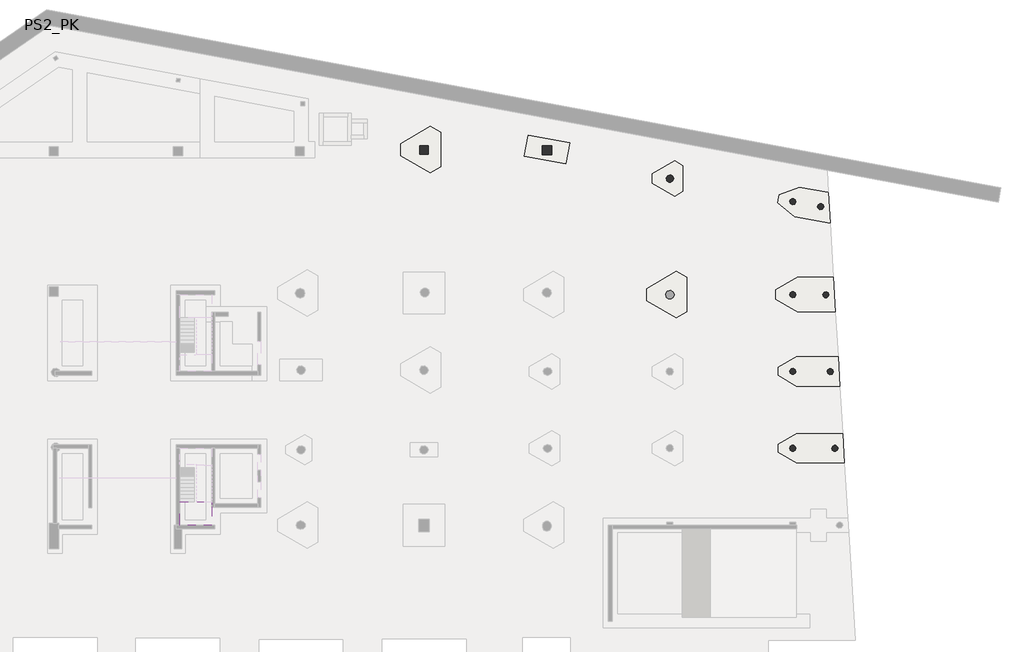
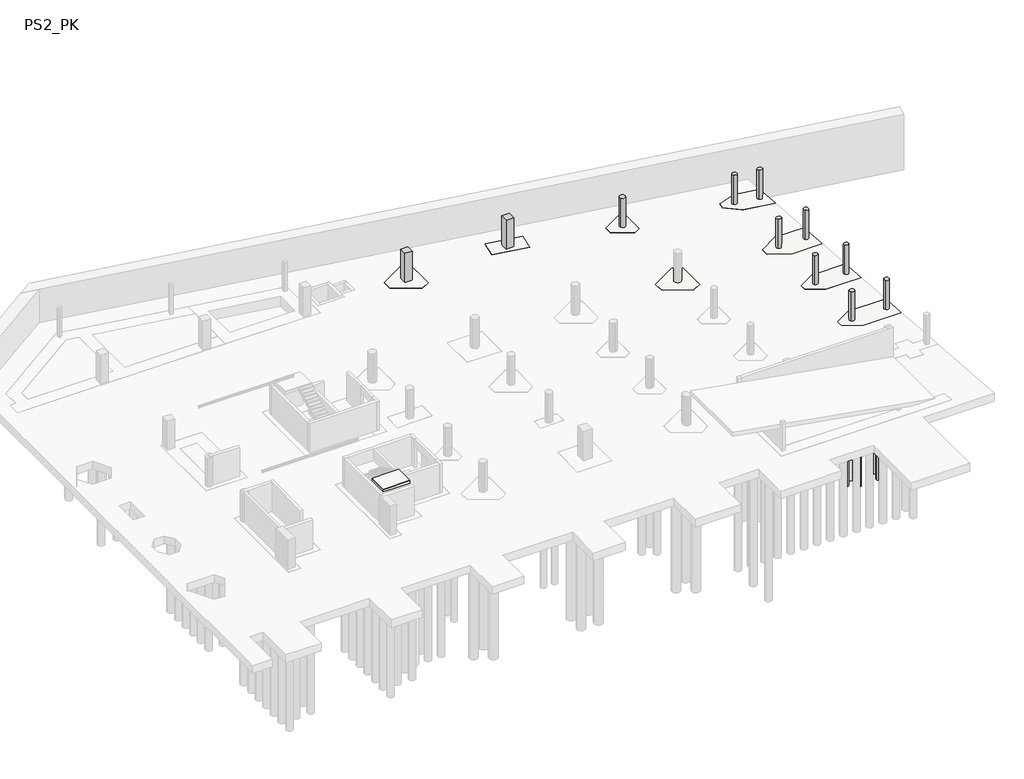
# One storey, part 8 of 10: 39 slabs, 11 columns.
"""IFC4 building model written with IfcOpenShell, lengths in millimetres."""

from ifc_helpers import new_model, si_unit, point, frame, frame_2d, origin, place, context, project, spatial, polyline, circle_curve, trimmed, segment, composite_curve, outline, extrude, faceted_brep, element, save

model = new_model("IFC4")

# Units and contexts
model_context = context("Model", 3, world=origin())
ifc_project = project(units=[si_unit("LENGTHUNIT", "METRE", prefix="MILLI")], contexts=[model_context])

# Site, building, storey
site = spatial("IfcSite", under=ifc_project)
building = spatial("IfcBuilding", under=site)
storey = spatial("IfcBuildingStorey", under=building, Name="PS2_PK", Elevation=-1600.0)

# Columns
placement = place(None, origin())
element("IfcColumn", 1, ObjectType="Hormigón-Redondo-Pilar : Pilo_Rodo-Formigo-500", at=placement, inside=storey, context=model_context, shape_type="SweptSolid", body=[
    extrude(outline(composite_curve([segment(trimmed(circle_curve(frame_2d((39164.9781849, 13864.8960687)), 250.0), [point((38959.0732439, 13723.1104726))], [point((39370.8831259, 14006.6816649))], False, "CARTESIAN"), True, "CONTINUOUS"), segment(trimmed(circle_curve(frame_2d((39164.9781849, 13864.8960687)), 250.0), [point((39370.8831259, 14006.6816649))], [point((38959.0732439, 13723.1104726))], False, "CARTESIAN"), True, "CONTINUOUS")], self_intersect=False)), frame((0.0, 0.0, -1600.0), z_axis=(0.0, 0.0, 1.0), x_axis=(1.0, 0.0, 0.0)), (0.0, 0.0, 1.0), 3050.0),
])
element("IfcColumn", 2, ObjectType="Hormigón-Redondo-Pilar : Pilo_Rodo-Formigo-500", at=placement, inside=storey, context=model_context, shape_type="SweptSolid", body=[
    extrude(outline(composite_curve([segment(trimmed(circle_curve(frame_2d((38738.3747997, 21018.6057261)), 250.0), [point((38532.4698587, 20876.8201299))], [point((38944.2797407, 21160.3913222))], False, "CARTESIAN"), True, "CONTINUOUS"), segment(trimmed(circle_curve(frame_2d((38738.3747997, 21018.6057261)), 250.0), [point((38944.2797407, 21160.3913222))], [point((38532.4698587, 20876.8201299))], False, "CARTESIAN"), True, "CONTINUOUS")], self_intersect=False)), frame((0.0, 0.0, -1600.0), z_axis=(0.0, 0.0, 1.0), x_axis=(1.0, 0.0, 0.0)), (0.0, 0.0, 1.0), 3050.0),
])
element("IfcColumn", 3, ObjectType="Hormigón-Redondo-Pilar : Pilo_Rodo-Formigo-600", at=placement, inside=storey, context=model_context, shape_type="SweptSolid", body=[
    extrude(outline(composite_curve([segment(trimmed(circle_curve(frame_2d((26484.7068935, 23302.069934)), 300.0), [point((26237.6209643, 23131.9272187))], [point((26731.7928227, 23472.2126494))], False, "CARTESIAN"), True, "CONTINUOUS"), segment(trimmed(circle_curve(frame_2d((26484.7068935, 23302.069934)), 300.0), [point((26731.7928227, 23472.2126494))], [point((26237.6209643, 23131.9272187))], False, "CARTESIAN"), True, "CONTINUOUS")], self_intersect=False)), frame((0.0, 0.0, -1600.0), z_axis=(0.0, 0.0, 1.0), x_axis=(1.0, 0.0, 0.0)), (0.0, 0.0, 1.0), 3050.0),
])
element("IfcColumn", 4, ObjectType="Hormigón-Redondo-Pilar : Pilo_Rodo-Formigo-500", at=placement, inside=storey, context=model_context, shape_type="SweptSolid", body=[
    extrude(outline(composite_curve([segment(trimmed(circle_curve(frame_2d((39910.401556, 1364.900857)), 250.0), [point((39704.496615, 1223.1152609))], [point((40116.306497, 1506.6864531))], False, "CARTESIAN"), True, "CONTINUOUS"), segment(trimmed(circle_curve(frame_2d((39910.401556, 1364.900857)), 250.0), [point((40116.306497, 1506.6864531))], [point((39704.496615, 1223.1152609))], False, "CARTESIAN"), True, "CONTINUOUS")], self_intersect=False)), frame((0.0, 0.0, -1600.0), z_axis=(0.0, 0.0, 1.0), x_axis=(1.0, 0.0, 0.0)), (0.0, 0.0, 1.0), 3050.0),
])
element("IfcColumn", 5, ObjectType="Hormigón-Redondo-Pilar : Pilo_Rodo-Formigo-500", at=placement, inside=storey, context=model_context, shape_type="SweptSolid", body=[
    extrude(outline(composite_curve([segment(trimmed(circle_curve(frame_2d((36484.7068935, 1364.9008565)), 250.0), [point((36278.8019525, 1223.1152604))], [point((36690.6118345, 1506.6864526))], False, "CARTESIAN"), True, "CONTINUOUS"), segment(trimmed(circle_curve(frame_2d((36484.7068935, 1364.9008565)), 250.0), [point((36690.6118345, 1506.6864526))], [point((36278.8019525, 1223.1152604))], False, "CARTESIAN"), True, "CONTINUOUS")], self_intersect=False)), frame((0.0, 0.0, -1600.0), z_axis=(0.0, 0.0, 1.0), x_axis=(1.0, 0.0, 0.0)), (0.0, 0.0, 1.0), 3050.0),
])
element("IfcColumn", 6, ObjectType="Hormigón-Redondo-Pilar : Pilo_Rodo-Formigo-500", at=placement, inside=storey, context=model_context, shape_type="SweptSolid", body=[
    extrude(outline(composite_curve([segment(trimmed(circle_curve(frame_2d((36484.7068935, 7614.9008574)), 250.0), [point((36278.8019525, 7473.1152613))], [point((36690.6118345, 7756.6864536))], False, "CARTESIAN"), True, "CONTINUOUS"), segment(trimmed(circle_curve(frame_2d((36484.7068935, 7614.9008574)), 250.0), [point((36690.6118345, 7756.6864536))], [point((36278.8019525, 7473.1152613))], False, "CARTESIAN"), True, "CONTINUOUS")], self_intersect=False)), frame((0.0, 0.0, -1600.0), z_axis=(0.0, 0.0, 1.0), x_axis=(1.0, 0.0, 0.0)), (0.0, 0.0, 1.0), 3050.0),
])
element("IfcColumn", 7, ObjectType="Hormigón-Redondo-Pilar : Pilo_Rodo-Formigo-500", at=placement, inside=storey, context=model_context, shape_type="SweptSolid", body=[
    extrude(outline(composite_curve([segment(trimmed(circle_curve(frame_2d((39537.6898707, 7614.9008552)), 250.0), [point((39331.7849297, 7473.115259))], [point((39743.5948117, 7756.6864513))], False, "CARTESIAN"), True, "CONTINUOUS"), segment(trimmed(circle_curve(frame_2d((39537.6898707, 7614.9008552)), 250.0), [point((39743.5948117, 7756.6864513))], [point((39331.7849297, 7473.115259))], False, "CARTESIAN"), True, "CONTINUOUS")], self_intersect=False)), frame((0.0, 0.0, -1600.0), z_axis=(0.0, 0.0, 1.0), x_axis=(1.0, 0.0, 0.0)), (0.0, 0.0, 1.0), 3050.0),
])
element("IfcColumn", 8, ObjectType="Hormigón-Redondo-Pilar : Pilo_Rodo-Formigo-500", at=placement, inside=storey, context=model_context, shape_type="SweptSolid", body=[
    extrude(outline(composite_curve([segment(trimmed(circle_curve(frame_2d((36484.7068935, 13864.900857)), 250.0), [point((36278.8019525, 13723.1152609))], [point((36690.6118345, 14006.6864531))], False, "CARTESIAN"), True, "CONTINUOUS"), segment(trimmed(circle_curve(frame_2d((36484.7068935, 13864.900857)), 250.0), [point((36690.6118345, 14006.6864531))], [point((36278.8019525, 13723.1152609))], False, "CARTESIAN"), True, "CONTINUOUS")], self_intersect=False)), frame((0.0, 0.0, -1600.0), z_axis=(0.0, 0.0, 1.0), x_axis=(1.0, 0.0, 0.0)), (0.0, 0.0, 1.0), 3050.0),
])
element("IfcColumn", 9, ObjectType="Hormigón-Redondo-Pilar : Pilo_Rodo-Formigo-500", at=placement, inside=storey, context=model_context, shape_type="SweptSolid", body=[
    extrude(outline(composite_curve([segment(trimmed(circle_curve(frame_2d((36484.7068935, 21438.580279)), 250.0), [point((36278.8019525, 21296.7946829))], [point((36690.6118345, 21580.3658751))], False, "CARTESIAN"), True, "CONTINUOUS"), segment(trimmed(circle_curve(frame_2d((36484.7068935, 21438.580279)), 250.0), [point((36690.6118345, 21580.3658751))], [point((36278.8019525, 21296.7946829))], False, "CARTESIAN"), True, "CONTINUOUS")], self_intersect=False)), frame((0.0, 0.0, -1600.0), z_axis=(0.0, 0.0, 1.0), x_axis=(1.0, 0.0, 0.0)), (0.0, 0.0, 1.0), 3050.0),
])
element("IfcColumn", 10, ObjectType="Concrete-Rectangular-Column : Pilar_Rectangular-Formigo-700x700", at=placement, inside=storey, context=model_context, shape_type="SweptSolid", body=[
    extrude(outline(polyline([(6834.6787349, 25964.386791), (6834.6778503, 25264.386791), (6134.6778503, 25264.3876756), (6134.6787349, 25964.3876756), (6834.6787349, 25964.386791)])), frame((0.0, 0.0, -1600.0), z_axis=(0.0, 0.0, 1.0), x_axis=(1.0, 0.0, 0.0)), (0.0, 0.0, 1.0), 3050.0),
])
element("IfcColumn", 11, ObjectType="Concrete-Rectangular-Column : Pilar_Rectangular-Formigo-750x750", at=placement, inside=storey, context=model_context, shape_type="SweptSolid", body=[
    extrude(outline(polyline([(16859.6787665, 25989.374115), (16859.6778187, 25239.374115), (16109.6778187, 25239.3750628), (16109.6787665, 25989.3750628), (16859.6787665, 25989.374115)])), frame((0.0, 0.0, -1600.0), z_axis=(0.0, 0.0, 1.0), x_axis=(1.0, 0.0, 0.0)), (0.0, 0.0, 1.0), 3050.0),
])

# Slabs
element("IfcSlab", 12, ObjectType="FunCap_Concreto_1100", at=placement, inside=storey, context=model_context, shape_type="Brep", body=[
    faceted_brep([(7011.5515081, 27552.3711641, -2700.0), (7855.9256607, 27064.8700958, -2700.0), (7855.9221194, 24264.870096, -2700.0), (7011.5467341, 23777.3711633, -2700.0), (4586.6773742, 25177.3742305, -2700.0), (4586.6786083, 26152.374231, -2700.0), (7011.5515081, 27552.3711641, -1600.0), (4586.6786083, 26152.374231, -1600.0), (4586.6773742, 25177.3742305, -1600.0), (7011.5467341, 23777.3711633, -1600.0), (7855.9221194, 24264.870096, -1600.0), (7855.9256607, 27064.8700958, -1600.0), (7011.5515081, 27552.3711641, -2400.0), (7855.9256607, 27064.8700958, -2400.0), (7855.9221194, 24264.870096, -2400.0), (7011.5467341, 23777.3711633, -2400.0), (4586.6773742, 25177.3742305, -2400.0), (4586.6786083, 26152.374231, -2400.0)], [[[0, 1, 2, 3, 4, 5]], [[6, 7, 8, 9, 10, 11]], [[1, 0, 12, 6, 11, 13]], [[2, 1, 13, 11, 10, 14]], [[3, 2, 14, 10, 9, 15]], [[4, 3, 15, 9, 8, 16]], [[5, 4, 16, 8, 7, 17]], [[0, 5, 17, 7, 6, 12]]]),
])
element("IfcSlab", 13, ObjectType="FunCap_Concreto_1100", at=placement, inside=storey, context=model_context, shape_type="Brep", body=[
    faceted_brep([(14949.2078667, 26841.0656674, -2700.0), (18340.8208483, 26209.03609, -2700.0), (18020.2261355, 24488.652694, -2700.0), (14628.6131535, 25120.682271, -2700.0), (14949.2078667, 26841.0656674, -1600.0), (14628.6131535, 25120.682271, -1600.0), (18020.2261355, 24488.652694, -1600.0), (18340.8208483, 26209.03609, -1600.0), (14949.2078667, 26841.0656674, -2400.0), (18340.8208483, 26209.03609, -2400.0), (18020.2261355, 24488.652694, -2400.0), (14628.6131535, 25120.682271, -2400.0)], [[[0, 1, 2, 3]], [[4, 5, 6, 7]], [[1, 0, 8, 4, 7, 9]], [[2, 1, 9, 7, 6, 10]], [[3, 2, 10, 6, 5, 11]], [[0, 3, 11, 5, 4, 8]]]),
])
element("IfcSlab", 14, ObjectType="FunCap_Concreto_1100", at=placement, inside=storey, context=model_context, shape_type="Brep", body=[
    faceted_brep([(25051.1316927, 23685.9645249, -2700.0), (26866.9142071, 24740.9213301, -2700.0), (27538.0834055, 24353.4204823, -2700.0), (27538.0807481, 22253.4204822, -2700.0), (26866.91057, 21865.9213306, -2700.0), (25051.1307172, 22914.2653799, -2700.0), (25051.1316927, 23685.9645249, -1600.0), (25051.1307172, 22914.2653799, -1600.0), (26866.91057, 21865.9213306, -1600.0), (27538.0807481, 22253.4204822, -1600.0), (27538.0834055, 24353.4204823, -1600.0), (26866.9142071, 24740.9213301, -1600.0), (25051.1316927, 23685.9645249, -2400.0), (26866.9142071, 24740.9213301, -2400.0), (27538.0834055, 24353.4204823, -2400.0), (27538.0807481, 22253.4204822, -2400.0), (26866.91057, 21865.9213306, -2400.0), (25051.1307172, 22914.2653799, -2400.0)], [[[0, 1, 2, 3, 4, 5]], [[6, 7, 8, 9, 10, 11]], [[1, 0, 12, 6, 11, 13]], [[2, 1, 13, 11, 10, 14]], [[3, 2, 14, 10, 9, 15]], [[4, 3, 15, 9, 8, 16]], [[5, 4, 16, 8, 7, 17]], [[0, 5, 17, 7, 6, 12]]]),
])
element("IfcSlab", 15, ObjectType="FunCap_Concreto_1100", at=placement, inside=storey, context=model_context, shape_type="Brep", body=[
    faceted_brep([(35327.7485575, 21984.6922065, -2700.0), (37018.9340764, 22601.0456277, -2700.0), (39370.5227617, 22187.4251578, -2700.0), (39520.4410922, 19673.4466209, -2700.0), (36594.5191648, 20188.086453, -2700.0), (35215.1486836, 21344.5193628, -2700.0), (35327.7485575, 21984.6922065, -1600.0), (35215.1486836, 21344.5193628, -1600.0), (36594.5191648, 20188.086453, -1600.0), (39520.4410922, 19673.4466209, -1600.0), (39370.5227617, 22187.4251578, -1600.0), (37018.9340764, 22601.0456277, -1600.0), (35327.7485575, 21984.6922065, -2400.0), (37018.9340764, 22601.0456277, -2400.0), (36594.5191648, 20188.086453, -2400.0), (35215.1486836, 21344.5193628, -2400.0)], [[[0, 1, 2, 3, 4, 5]], [[6, 7, 8, 9, 10, 11]], [[1, 0, 12, 6, 11, 13]], [[5, 4, 14, 8, 7, 15]], [[0, 5, 15, 7, 6, 12]], [[2, 1, 13, 11, 10]], [[3, 2, 10, 9]], [[4, 3, 9, 8, 14]]]),
])
element("IfcSlab", 16, ObjectType="FunCap_Concreto_1100", at=placement, inside=storey, context=model_context, shape_type="Brep", body=[
    faceted_brep([(36866.9022695, 15303.7348156, -2700.0), (39781.0242442, 15303.7311284, -2700.0), (39952.4717033, 12428.7309114, -2700.0), (36866.8986333, 12428.7348156, -2700.0), (35051.1187805, 13477.078865, -2700.0), (35051.1197574, 14248.7780085, -2700.0), (36866.9022695, 15303.7348156, -1600.0), (35051.1197574, 14248.7780085, -1600.0), (35051.1187805, 13477.078865, -1600.0), (36866.8986333, 12428.7348156, -1600.0), (39952.4717033, 12428.7309114, -1600.0), (39781.0242442, 15303.7311284, -1600.0), (36866.8986333, 12428.7348156, -2400.0), (35051.1187805, 13477.078865, -2400.0), (35051.1197574, 14248.7780085, -2400.0), (36866.9022695, 15303.7348156, -2400.0)], [[[0, 1, 2, 3, 4, 5]], [[6, 7, 8, 9, 10, 11]], [[4, 3, 12, 9, 8, 13]], [[5, 4, 13, 8, 7, 14]], [[0, 5, 14, 7, 6, 15]], [[1, 0, 15, 6, 11]], [[2, 1, 11, 10]], [[3, 2, 10, 9, 12]]]),
])
element("IfcSlab", 17, ObjectType="FunCap_Concreto_1100", at=placement, inside=storey, context=model_context, shape_type="Brep", body=[
    faceted_brep([(27011.5365827, 15752.3458654, -2700.0), (27855.9107353, 15264.8447975, -2700.0), (27855.9071935, 12464.8447963, -2700.0), (27011.5318087, 11977.3458655, -2700.0), (24586.6624473, 13377.3489331, -2700.0), (24586.663681, 14352.3489323, -2700.0), (27011.5365827, 15752.3458654, -1600.0), (24586.663681, 14352.3489323, -1600.0), (24586.6624473, 13377.3489331, -1600.0), (27011.5318087, 11977.3458655, -1600.0), (27855.9071935, 12464.8447963, -1600.0), (27855.9107353, 15264.8447975, -1600.0), (27011.5365827, 15752.3458654, -2400.0), (27855.9107353, 15264.8447975, -2400.0), (27855.9071935, 12464.8447963, -2400.0), (27011.5318087, 11977.3458655, -2400.0), (24586.6624473, 13377.3489331, -2400.0), (24586.663681, 14352.3489323, -2400.0)], [[[0, 1, 2, 3, 4, 5]], [[6, 7, 8, 9, 10, 11]], [[1, 0, 12, 6, 11, 13]], [[2, 1, 13, 11, 10, 14]], [[3, 2, 14, 10, 9, 15]], [[4, 3, 15, 9, 8, 16]], [[5, 4, 16, 8, 7, 17]], [[0, 5, 17, 7, 6, 12]]]),
])
element("IfcSlab", 18, ObjectType="FunCap_Concreto_1100", at=placement, inside=storey, context=model_context, shape_type="Brep", body=[
    faceted_brep([(36809.4552451, 8839.8334717, -2700.0), (40166.4918873, 8839.8292249, -2700.0), (40312.5949393, 6389.8290421, -2700.0), (36809.4521466, 6389.833472, -2700.0), (35250.6075582, 7289.8354437, -2700.0), (35250.6083804, 7939.8354441, -2700.0), (36809.4552451, 8839.8334717, -1600.0), (35250.6083804, 7939.8354441, -1600.0), (35250.6075582, 7289.8354437, -1600.0), (36809.4521466, 6389.833472, -1600.0), (40312.5949393, 6389.8290421, -1600.0), (40166.4918873, 8839.8292249, -1600.0), (36809.4521466, 6389.833472, -2400.0), (35250.6075582, 7289.8354437, -2400.0), (35250.6083804, 7939.8354441, -2400.0), (36809.4552451, 8839.8334717, -2400.0)], [[[0, 1, 2, 3, 4, 5]], [[6, 7, 8, 9, 10, 11]], [[4, 3, 12, 9, 8, 13]], [[5, 4, 13, 8, 7, 14]], [[0, 5, 14, 7, 6, 15]], [[1, 0, 15, 6, 11]], [[2, 1, 11, 10]], [[3, 2, 10, 9, 12]]]),
])
element("IfcSlab", 19, ObjectType="FunCap_Concreto_1100", at=placement, inside=storey, context=model_context, shape_type="Brep", body=[
    faceted_brep([(36809.447356, 2602.3334714, -2700.0), (40538.4583312, 2602.3287555, -2700.0), (40684.5613834, 152.3285708, -2700.0), (36809.444257, 152.3334726, -2700.0), (35250.5996686, 1052.3354439, -2700.0), (35250.6004904, 1702.3354448, -2700.0), (36809.447356, 2602.3334714, -1600.0), (35250.6004904, 1702.3354448, -1600.0), (35250.5996686, 1052.3354439, -1600.0), (36809.444257, 152.3334726, -1600.0), (40684.5613834, 152.3285708, -1600.0), (40538.4583312, 2602.3287555, -1600.0), (36809.444257, 152.3334726, -2400.0), (35250.5996686, 1052.3354439, -2400.0), (35250.6004904, 1702.3354448, -2400.0), (36809.447356, 2602.3334714, -2400.0)], [[[0, 1, 2, 3, 4, 5]], [[6, 7, 8, 9, 10, 11]], [[4, 3, 12, 9, 8, 13]], [[5, 4, 13, 8, 7, 14]], [[0, 5, 14, 7, 6, 15]], [[1, 0, 15, 6, 11]], [[2, 1, 11, 10]], [[3, 2, 10, 9, 12]]]),
])
element("IfcSlab", 20, ObjectType="Fun_Pilote_Redondo : Fun_Pilote_Redondo_550x16000", at=placement, inside=storey, context=model_context, shape_type="SweptSolid", body=[
    extrude(outline(composite_curve([segment(trimmed(circle_curve(frame_2d((35854.2856436, 21562.0906888)), 275.0), [point((35579.2856436, 21562.0906888))], [point((36129.2856436, 21562.0906888))], False, "CARTESIAN"), True, "CONTINUOUS"), segment(trimmed(circle_curve(frame_2d((35854.2856436, 21562.0906888)), 275.0), [point((36129.2856436, 21562.0906888))], [point((35579.2856436, 21562.0906888))], False, "CARTESIAN"), True, "CONTINUOUS")], self_intersect=False)), frame((0.0, 0.0, -18700.0), z_axis=(0.0, 0.0, 1.0), x_axis=(1.0, 0.0, 0.0)), (0.0, 0.0, 1.0), 16000.0),
])
element("IfcSlab", 21, ObjectType="Fun_Pilote_Redondo : Fun_Pilote_Redondo_550x16000", at=placement, inside=storey, context=model_context, shape_type="SweptSolid", body=[
    extrude(outline(composite_curve([segment(trimmed(circle_curve(frame_2d((36887.7879054, 21938.7511136)), 275.0), [point((36612.7879054, 21938.7511136))], [point((37162.7879054, 21938.7511136))], False, "CARTESIAN"), True, "CONTINUOUS"), segment(trimmed(circle_curve(frame_2d((36887.7879054, 21938.7511136)), 275.0), [point((37162.7879054, 21938.7511136))], [point((36612.7879054, 21938.7511136))], False, "CARTESIAN"), True, "CONTINUOUS")], self_intersect=False)), frame((0.0, 0.0, -18700.0), z_axis=(0.0, 0.0, 1.0), x_axis=(1.0, 0.0, 0.0)), (0.0, 0.0, 1.0), 16000.0),
])
element("IfcSlab", 22, ObjectType="Fun_Pilote_Redondo : Fun_Pilote_Redondo_550x16000", at=placement, inside=storey, context=model_context, shape_type="SweptSolid", body=[
    extrude(outline(composite_curve([segment(trimmed(circle_curve(frame_2d((36697.2342713, 20855.3816878)), 275.0), [point((36422.2342713, 20855.3816878))], [point((36972.2342713, 20855.3816878))], False, "CARTESIAN"), True, "CONTINUOUS"), segment(trimmed(circle_curve(frame_2d((36697.2342713, 20855.3816878)), 275.0), [point((36972.2342713, 20855.3816878))], [point((36422.2342713, 20855.3816878))], False, "CARTESIAN"), True, "CONTINUOUS")], self_intersect=False)), frame((0.0, 0.0, -18700.0), z_axis=(0.0, 0.0, 1.0), x_axis=(1.0, 0.0, 0.0)), (0.0, 0.0, 1.0), 16000.0),
])
element("IfcSlab", 23, ObjectType="Fun_Pilote_Redondo : Fun_Pilote_Redondo_550x16000", at=placement, inside=storey, context=model_context, shape_type="SweptSolid", body=[
    extrude(outline(composite_curve([segment(trimmed(circle_curve(frame_2d((38022.4974672, 20622.2814049)), 275.0), [point((37747.4974672, 20622.2814049))], [point((38297.4974672, 20622.2814049))], False, "CARTESIAN"), True, "CONTINUOUS"), segment(trimmed(circle_curve(frame_2d((38022.4974672, 20622.2814049)), 275.0), [point((38297.4974672, 20622.2814049))], [point((37747.4974672, 20622.2814049))], False, "CARTESIAN"), True, "CONTINUOUS")], self_intersect=False)), frame((0.0, 0.0, -18700.0), z_axis=(0.0, 0.0, 1.0), x_axis=(1.0, 0.0, 0.0)), (0.0, 0.0, 1.0), 16000.0),
])
element("IfcSlab", 24, ObjectType="Fun_Pilote_Redondo : Fun_Pilote_Redondo_550x16000", at=placement, inside=storey, context=model_context, shape_type="SweptSolid", body=[
    extrude(outline(composite_curve([segment(trimmed(circle_curve(frame_2d((38174.134318, 21712.4958968)), 275.0), [point((37899.134318, 21712.4958968))], [point((38449.134318, 21712.4958968))], False, "CARTESIAN"), True, "CONTINUOUS"), segment(trimmed(circle_curve(frame_2d((38174.134318, 21712.4958968)), 275.0), [point((38449.134318, 21712.4958968))], [point((37899.134318, 21712.4958968))], False, "CARTESIAN"), True, "CONTINUOUS")], self_intersect=False)), frame((0.0, 0.0, -18700.0), z_axis=(0.0, 0.0, 1.0), x_axis=(1.0, 0.0, 0.0)), (0.0, 0.0, 1.0), 16000.0),
])
element("IfcSlab", 25, ObjectType="Fun_Pilote_Redondo : Fun_Pilote_Redondo_550x16000", at=placement, inside=storey, context=model_context, shape_type="SweptSolid", body=[
    extrude(outline(composite_curve([segment(trimmed(circle_curve(frame_2d((38373.6320326, 14414.8314852)), 275.0), [point((38098.6320326, 14414.8314852))], [point((38648.6320326, 14414.8314852))], False, "CARTESIAN"), True, "CONTINUOUS"), segment(trimmed(circle_curve(frame_2d((38373.6320326, 14414.8314852)), 275.0), [point((38648.6320326, 14414.8314852))], [point((38098.6320326, 14414.8314852))], False, "CARTESIAN"), True, "CONTINUOUS")], self_intersect=False)), frame((0.0, 0.0, -18700.0), z_axis=(0.0, 0.0, 1.0), x_axis=(1.0, 0.0, 0.0)), (0.0, 0.0, 1.0), 16000.0),
])
element("IfcSlab", 26, ObjectType="Fun_Pilote_Redondo : Fun_Pilote_Redondo_550x16000", at=placement, inside=storey, context=model_context, shape_type="SweptSolid", body=[
    extrude(outline(composite_curve([segment(trimmed(circle_curve(frame_2d((38413.1448277, 13314.8314355)), 275.0), [point((38138.1448277, 13314.8314355))], [point((38688.1448277, 13314.8314355))], False, "CARTESIAN"), True, "CONTINUOUS"), segment(trimmed(circle_curve(frame_2d((38413.1448277, 13314.8314355)), 275.0), [point((38688.1448277, 13314.8314355))], [point((38138.1448277, 13314.8314355))], False, "CARTESIAN"), True, "CONTINUOUS")], self_intersect=False)), frame((0.0, 0.0, -18700.0), z_axis=(0.0, 0.0, 1.0), x_axis=(1.0, 0.0, 0.0)), (0.0, 0.0, 1.0), 16000.0),
])
element("IfcSlab", 27, ObjectType="Fun_Pilote_Redondo : Fun_Pilote_Redondo_550x16000", at=placement, inside=storey, context=model_context, shape_type="SweptSolid", body=[
    extrude(outline(composite_curve([segment(trimmed(circle_curve(frame_2d((38598.1365338, 8152.3312013)), 275.0), [point((38323.1365338, 8152.3312013))], [point((38873.1365338, 8152.3312013))], False, "CARTESIAN"), True, "CONTINUOUS"), segment(trimmed(circle_curve(frame_2d((38598.1365338, 8152.3312013)), 275.0), [point((38873.1365338, 8152.3312013))], [point((38323.1365338, 8152.3312013))], False, "CARTESIAN"), True, "CONTINUOUS")], self_intersect=False)), frame((0.0, 0.0, -18700.0), z_axis=(0.0, 0.0, 1.0), x_axis=(1.0, 0.0, 0.0)), (0.0, 0.0, 1.0), 16000.0),
])
element("IfcSlab", 28, ObjectType="Fun_Pilote_Redondo : Fun_Pilote_Redondo_550x16000", at=placement, inside=storey, context=model_context, shape_type="SweptSolid", body=[
    extrude(outline(composite_curve([segment(trimmed(circle_curve(frame_2d((38637.6493289, 7052.331151)), 275.0), [point((38362.6493289, 7052.331151))], [point((38912.6493289, 7052.331151))], False, "CARTESIAN"), True, "CONTINUOUS"), segment(trimmed(circle_curve(frame_2d((38637.6493289, 7052.331151)), 275.0), [point((38912.6493289, 7052.331151))], [point((38362.6493289, 7052.331151))], False, "CARTESIAN"), True, "CONTINUOUS")], self_intersect=False)), frame((0.0, 0.0, -18700.0), z_axis=(0.0, 0.0, 1.0), x_axis=(1.0, 0.0, 0.0)), (0.0, 0.0, 1.0), 16000.0),
])
element("IfcSlab", 29, ObjectType="Fun_Pilote_Redondo : Fun_Pilote_Redondo_550x16000", at=placement, inside=storey, context=model_context, shape_type="SweptSolid", body=[
    extrude(outline(composite_curve([segment(trimmed(circle_curve(frame_2d((36795.0192457, 7064.8334824)), 275.0), [point((36520.0192457, 7064.8334824))], [point((37070.0192457, 7064.8334824))], False, "CARTESIAN"), True, "CONTINUOUS"), segment(trimmed(circle_curve(frame_2d((36795.0192457, 7064.8334824)), 275.0), [point((37070.0192457, 7064.8334824))], [point((36520.0192457, 7064.8334824))], False, "CARTESIAN"), True, "CONTINUOUS")], self_intersect=False)), frame((0.0, 0.0, -18700.0), z_axis=(0.0, 0.0, 1.0), x_axis=(1.0, 0.0, 0.0)), (0.0, 0.0, 1.0), 16000.0),
])
element("IfcSlab", 30, ObjectType="Fun_Pilote_Redondo : Fun_Pilote_Redondo_550x16000", at=placement, inside=storey, context=model_context, shape_type="SweptSolid", body=[
    extrude(outline(composite_curve([segment(trimmed(circle_curve(frame_2d((36795.0206374, 8164.8334827)), 275.0), [point((36520.0206374, 8164.8334827))], [point((37070.0206374, 8164.8334827))], False, "CARTESIAN"), True, "CONTINUOUS"), segment(trimmed(circle_curve(frame_2d((36795.0206374, 8164.8334827)), 275.0), [point((37070.0206374, 8164.8334827))], [point((36520.0206374, 8164.8334827))], False, "CARTESIAN"), True, "CONTINUOUS")], self_intersect=False)), frame((0.0, 0.0, -18700.0), z_axis=(0.0, 0.0, 1.0), x_axis=(1.0, 0.0, 0.0)), (0.0, 0.0, 1.0), 16000.0),
])
element("IfcSlab", 31, ObjectType="Fun_Pilote_Redondo : Fun_Pilote_Redondo_550x16000", at=placement, inside=storey, context=model_context, shape_type="SweptSolid", body=[
    extrude(outline(composite_curve([segment(trimmed(circle_curve(frame_2d((35842.3919975, 7614.8346877)), 275.0), [point((35567.3919975, 7614.8346877))], [point((36117.3919975, 7614.8346877))], False, "CARTESIAN"), True, "CONTINUOUS"), segment(trimmed(circle_curve(frame_2d((35842.3919975, 7614.8346877)), 275.0), [point((36117.3919975, 7614.8346877))], [point((35567.3919975, 7614.8346877))], False, "CARTESIAN"), True, "CONTINUOUS")], self_intersect=False)), frame((0.0, 0.0, -18700.0), z_axis=(0.0, 0.0, 1.0), x_axis=(1.0, 0.0, 0.0)), (0.0, 0.0, 1.0), 16000.0),
])
element("IfcSlab", 32, ObjectType="Fun_Pilote_Redondo : Fun_Pilote_Redondo_550x16000", at=placement, inside=storey, context=model_context, shape_type="SweptSolid", body=[
    extrude(outline(composite_curve([segment(trimmed(circle_curve(frame_2d((38822.6410508, 1902.3309173)), 275.0), [point((38547.6410508, 1902.3309173))], [point((39097.6410508, 1902.3309173))], False, "CARTESIAN"), True, "CONTINUOUS"), segment(trimmed(circle_curve(frame_2d((38822.6410508, 1902.3309173)), 275.0), [point((39097.6410508, 1902.3309173))], [point((38547.6410508, 1902.3309173))], False, "CARTESIAN"), True, "CONTINUOUS")], self_intersect=False)), frame((0.0, 0.0, -18700.0), z_axis=(0.0, 0.0, 1.0), x_axis=(1.0, 0.0, 0.0)), (0.0, 0.0, 1.0), 16000.0),
])
element("IfcSlab", 33, ObjectType="Fun_Pilote_Redondo : Fun_Pilote_Redondo_550x16000", at=placement, inside=storey, context=model_context, shape_type="SweptSolid", body=[
    extrude(outline(composite_curve([segment(trimmed(circle_curve(frame_2d((38862.1538457, 802.3308676)), 275.0), [point((38587.1538457, 802.3308676))], [point((39137.1538457, 802.3308676))], False, "CARTESIAN"), True, "CONTINUOUS"), segment(trimmed(circle_curve(frame_2d((38862.1538457, 802.3308676)), 275.0), [point((39137.1538457, 802.3308676))], [point((38587.1538457, 802.3308676))], False, "CARTESIAN"), True, "CONTINUOUS")], self_intersect=False)), frame((0.0, 0.0, -18700.0), z_axis=(0.0, 0.0, 1.0), x_axis=(1.0, 0.0, 0.0)), (0.0, 0.0, 1.0), 16000.0),
])
element("IfcSlab", 34, ObjectType="Fun_Pilote_Redondo : Fun_Pilote_Redondo_550x16000", at=placement, inside=storey, context=model_context, shape_type="SweptSolid", body=[
    extrude(outline(composite_curve([segment(trimmed(circle_curve(frame_2d((36795.0113391, 814.8334824)), 275.0), [point((36520.0113391, 814.8334824))], [point((37070.0113391, 814.8334824))], False, "CARTESIAN"), True, "CONTINUOUS"), segment(trimmed(circle_curve(frame_2d((36795.0113391, 814.8334824)), 275.0), [point((37070.0113391, 814.8334824))], [point((36520.0113391, 814.8334824))], False, "CARTESIAN"), True, "CONTINUOUS")], self_intersect=False)), frame((0.0, 0.0, -18700.0), z_axis=(0.0, 0.0, 1.0), x_axis=(1.0, 0.0, 0.0)), (0.0, 0.0, 1.0), 16000.0),
])
element("IfcSlab", 35, ObjectType="Fun_Pilote_Redondo : Fun_Pilote_Redondo_550x16000", at=placement, inside=storey, context=model_context, shape_type="SweptSolid", body=[
    extrude(outline(composite_curve([segment(trimmed(circle_curve(frame_2d((36795.012731, 1914.8334825)), 275.0), [point((36520.012731, 1914.8334825))], [point((37070.012731, 1914.8334825))], False, "CARTESIAN"), True, "CONTINUOUS"), segment(trimmed(circle_curve(frame_2d((36795.012731, 1914.8334825)), 275.0), [point((37070.012731, 1914.8334825))], [point((36520.012731, 1914.8334825))], False, "CARTESIAN"), True, "CONTINUOUS")], self_intersect=False)), frame((0.0, 0.0, -18700.0), z_axis=(0.0, 0.0, 1.0), x_axis=(1.0, 0.0, 0.0)), (0.0, 0.0, 1.0), 16000.0),
])
element("IfcSlab", 36, ObjectType="Fun_Pilote_Redondo : Fun_Pilote_Redondo_550x16000", at=placement, inside=storey, context=model_context, shape_type="SweptSolid", body=[
    extrude(outline(composite_curve([segment(trimmed(circle_curve(frame_2d((35842.3840909, 1364.8346875)), 275.0), [point((35567.3840909, 1364.8346875))], [point((36117.3840909, 1364.8346875))], False, "CARTESIAN"), True, "CONTINUOUS"), segment(trimmed(circle_curve(frame_2d((35842.3840909, 1364.8346875)), 275.0), [point((36117.3840909, 1364.8346875))], [point((35567.3840909, 1364.8346875))], False, "CARTESIAN"), True, "CONTINUOUS")], self_intersect=False)), frame((0.0, 0.0, -18700.0), z_axis=(0.0, 0.0, 1.0), x_axis=(1.0, 0.0, 0.0)), (0.0, 0.0, 1.0), 16000.0),
])
element("IfcSlab", 37, ObjectType="Fun_Pilote_Redondo : Fun_Pilote_Redondo_Conc_650x16000", at=placement, inside=storey, context=model_context, shape_type="SweptSolid", body=[
    extrude(outline(composite_curve([segment(trimmed(circle_curve(frame_2d((26861.1694624, 23949.9684693)), 325.0), [point((26536.1694624, 23949.9684693))], [point((27186.1694624, 23949.9684693))], False, "CARTESIAN"), True, "CONTINUOUS"), segment(trimmed(circle_curve(frame_2d((26861.1694624, 23949.9684693)), 325.0), [point((27186.1694624, 23949.9684693))], [point((26536.1694624, 23949.9684693))], False, "CARTESIAN"), True, "CONTINUOUS")], self_intersect=False)), frame((0.0, 0.0, -18700.0), z_axis=(0.0, 0.0, 1.0), x_axis=(1.0, 0.0, 0.0)), (0.0, 0.0, 1.0), 16000.0),
])
element("IfcSlab", 38, ObjectType="Fun_Pilote_Redondo : Fun_Pilote_Redondo_Conc_650x16000", at=placement, inside=storey, context=model_context, shape_type="SweptSolid", body=[
    extrude(outline(composite_curve([segment(trimmed(circle_curve(frame_2d((26861.1678183, 22649.968469)), 325.0), [point((26536.1678183, 22649.968469))], [point((27186.1678183, 22649.968469))], False, "CARTESIAN"), True, "CONTINUOUS"), segment(trimmed(circle_curve(frame_2d((26861.1678183, 22649.968469)), 325.0), [point((27186.1678183, 22649.968469))], [point((26536.1678183, 22649.968469))], False, "CARTESIAN"), True, "CONTINUOUS")], self_intersect=False)), frame((0.0, 0.0, -18700.0), z_axis=(0.0, 0.0, 1.0), x_axis=(1.0, 0.0, 0.0)), (0.0, 0.0, 1.0), 16000.0),
])
element("IfcSlab", 39, ObjectType="Fun_Pilote_Redondo : Fun_Pilote_Redondo_Conc_650x16000", at=placement, inside=storey, context=model_context, shape_type="SweptSolid", body=[
    extrude(outline(composite_curve([segment(trimmed(circle_curve(frame_2d((25731.8047707, 23306.1242385)), 325.0), [point((25406.8047707, 23306.1242385))], [point((26056.8047707, 23306.1242385))], False, "CARTESIAN"), True, "CONTINUOUS"), segment(trimmed(circle_curve(frame_2d((25731.8047707, 23306.1242385)), 325.0), [point((26056.8047707, 23306.1242385))], [point((25406.8047707, 23306.1242385))], False, "CARTESIAN"), True, "CONTINUOUS")], self_intersect=False)), frame((0.0, 0.0, -18700.0), z_axis=(0.0, 0.0, 1.0), x_axis=(1.0, 0.0, 0.0)), (0.0, 0.0, 1.0), 16000.0),
])
element("IfcSlab", 40, ObjectType="Fun_Pilote_Redondo : Fun_Pilote_Redondo_Conc_650x16000", at=placement, inside=storey, context=model_context, shape_type="SweptSolid", body=[
    extrude(outline(composite_curve([segment(trimmed(circle_curve(frame_2d((35731.7928326, 13868.9377214)), 325.0), [point((35406.7928326, 13868.9377214))], [point((36056.7928326, 13868.9377214))], False, "CARTESIAN"), True, "CONTINUOUS"), segment(trimmed(circle_curve(frame_2d((35731.7928326, 13868.9377214)), 325.0), [point((36056.7928326, 13868.9377214))], [point((35406.7928326, 13868.9377214))], False, "CARTESIAN"), True, "CONTINUOUS")], self_intersect=False)), frame((0.0, 0.0, -18700.0), z_axis=(0.0, 0.0, 1.0), x_axis=(1.0, 0.0, 0.0)), (0.0, 0.0, 1.0), 16000.0),
])
element("IfcSlab", 41, ObjectType="Fun_Pilote_Redondo : Fun_Pilote_Redondo_Conc_650x16000", at=placement, inside=storey, context=model_context, shape_type="SweptSolid", body=[
    extrude(outline(composite_curve([segment(trimmed(circle_curve(frame_2d((36861.1575238, 14512.7819513)), 325.0), [point((36536.1575238, 14512.7819513))], [point((37186.1575238, 14512.7819513))], False, "CARTESIAN"), True, "CONTINUOUS"), segment(trimmed(circle_curve(frame_2d((36861.1575238, 14512.7819513)), 325.0), [point((37186.1575238, 14512.7819513))], [point((36536.1575238, 14512.7819513))], False, "CARTESIAN"), True, "CONTINUOUS")], self_intersect=False)), frame((0.0, 0.0, -18700.0), z_axis=(0.0, 0.0, 1.0), x_axis=(1.0, 0.0, 0.0)), (0.0, 0.0, 1.0), 16000.0),
])
element("IfcSlab", 42, ObjectType="Fun_Pilote_Redondo : Fun_Pilote_Redondo_Conc_650x16000", at=placement, inside=storey, context=model_context, shape_type="SweptSolid", body=[
    extrude(outline(composite_curve([segment(trimmed(circle_curve(frame_2d((36861.1558793, 13212.781952)), 325.0), [point((36536.1558793, 13212.781952))], [point((37186.1558793, 13212.781952))], False, "CARTESIAN"), True, "CONTINUOUS"), segment(trimmed(circle_curve(frame_2d((36861.1558793, 13212.781952)), 325.0), [point((37186.1558793, 13212.781952))], [point((36536.1558793, 13212.781952))], False, "CARTESIAN"), True, "CONTINUOUS")], self_intersect=False)), frame((0.0, 0.0, -18700.0), z_axis=(0.0, 0.0, 1.0), x_axis=(1.0, 0.0, 0.0)), (0.0, 0.0, 1.0), 16000.0),
])
element("IfcSlab", 43, ObjectType="Fun_Pilote_Redondo : Fun_Pilote_Redondo_Conc_850x16000", at=placement, inside=storey, context=model_context, shape_type="SweptSolid", body=[
    extrude(outline(composite_curve([segment(trimmed(circle_curve(frame_2d((17320.3317993, 25509.1417439)), 425.0), [point((16895.3317993, 25509.1417439))], [point((17745.3317993, 25509.1417439))], False, "CARTESIAN"), True, "CONTINUOUS"), segment(trimmed(circle_curve(frame_2d((17320.3317993, 25509.1417439)), 425.0), [point((17745.3317993, 25509.1417439))], [point((16895.3317993, 25509.1417439))], False, "CARTESIAN"), True, "CONTINUOUS")], self_intersect=False)), frame((0.0, 0.0, -18700.0), z_axis=(0.0, 0.0, 1.0), x_axis=(1.0, 0.0, 0.0)), (0.0, 0.0, 1.0), 16000.0),
])
element("IfcSlab", 44, ObjectType="Fun_Pilote_Redondo : Fun_Pilote_Redondo_Conc_850x16000", at=placement, inside=storey, context=model_context, shape_type="SweptSolid", body=[
    extrude(outline(composite_curve([segment(trimmed(circle_curve(frame_2d((15649.102214, 25820.5766078)), 425.0), [point((15224.102214, 25820.5766078))], [point((16074.102214, 25820.5766078))], False, "CARTESIAN"), True, "CONTINUOUS"), segment(trimmed(circle_curve(frame_2d((15649.102214, 25820.5766078)), 425.0), [point((16074.102214, 25820.5766078))], [point((15224.102214, 25820.5766078))], False, "CARTESIAN"), True, "CONTINUOUS")], self_intersect=False)), frame((0.0, 0.0, -18700.0), z_axis=(0.0, 0.0, 1.0), x_axis=(1.0, 0.0, 0.0)), (0.0, 0.0, 1.0), 16000.0),
])
element("IfcSlab", 45, ObjectType="Fun_Pilote_Redondo : Fun_Pilote_Redondo_Conc_850x16000", at=placement, inside=storey, context=model_context, shape_type="SweptSolid", body=[
    extrude(outline(composite_curve([segment(trimmed(circle_curve(frame_2d((6975.4658107, 26514.8712059)), 425.0), [point((6550.4658107, 26514.8712059))], [point((7400.4658107, 26514.8712059))], False, "CARTESIAN"), True, "CONTINUOUS"), segment(trimmed(circle_curve(frame_2d((6975.4658107, 26514.8712059)), 425.0), [point((7400.4658107, 26514.8712059))], [point((6550.4658107, 26514.8712059))], False, "CARTESIAN"), True, "CONTINUOUS")], self_intersect=False)), frame((0.0, 0.0, -18700.0), z_axis=(0.0, 0.0, 1.0), x_axis=(1.0, 0.0, 0.0)), (0.0, 0.0, 1.0), 16000.0),
])
element("IfcSlab", 46, ObjectType="Fun_Pilote_Redondo : Fun_Pilote_Redondo_Conc_850x16000", at=placement, inside=storey, context=model_context, shape_type="SweptSolid", body=[
    extrude(outline(composite_curve([segment(trimmed(circle_curve(frame_2d((5503.2215484, 25664.8730684)), 425.0), [point((5078.2215484, 25664.8730684))], [point((5928.2215484, 25664.8730684))], False, "CARTESIAN"), True, "CONTINUOUS"), segment(trimmed(circle_curve(frame_2d((5503.2215484, 25664.8730684)), 425.0), [point((5928.2215484, 25664.8730684))], [point((5078.2215484, 25664.8730684))], False, "CARTESIAN"), True, "CONTINUOUS")], self_intersect=False)), frame((0.0, 0.0, -18700.0), z_axis=(0.0, 0.0, 1.0), x_axis=(1.0, 0.0, 0.0)), (0.0, 0.0, 1.0), 16000.0),
])
element("IfcSlab", 47, ObjectType="Fun_Pilote_Redondo : Fun_Pilote_Redondo_Conc_850x16000", at=placement, inside=storey, context=model_context, shape_type="SweptSolid", body=[
    extrude(outline(composite_curve([segment(trimmed(circle_curve(frame_2d((6975.4636599, 24814.8712064)), 425.0), [point((6550.4636599, 24814.8712064))], [point((7400.4636599, 24814.8712064))], False, "CARTESIAN"), True, "CONTINUOUS"), segment(trimmed(circle_curve(frame_2d((6975.4636599, 24814.8712064)), 425.0), [point((7400.4636599, 24814.8712064))], [point((6550.4636599, 24814.8712064))], False, "CARTESIAN"), True, "CONTINUOUS")], self_intersect=False)), frame((0.0, 0.0, -18700.0), z_axis=(0.0, 0.0, 1.0), x_axis=(1.0, 0.0, 0.0)), (0.0, 0.0, 1.0), 16000.0),
])
element("IfcSlab", 48, ObjectType="Fun_Pilote_Redondo : Fun_Pilote_Redondo_Conc_850x16000", at=placement, inside=storey, context=model_context, shape_type="SweptSolid", body=[
    extrude(outline(composite_curve([segment(trimmed(circle_curve(frame_2d((26975.4508826, 14714.8459051)), 425.0), [point((26550.4508826, 14714.8459051))], [point((27400.4508826, 14714.8459051))], False, "CARTESIAN"), True, "CONTINUOUS"), segment(trimmed(circle_curve(frame_2d((26975.4508826, 14714.8459051)), 425.0), [point((27400.4508826, 14714.8459051))], [point((26550.4508826, 14714.8459051))], False, "CARTESIAN"), True, "CONTINUOUS")], self_intersect=False)), frame((0.0, 0.0, -18700.0), z_axis=(0.0, 0.0, 1.0), x_axis=(1.0, 0.0, 0.0)), (0.0, 0.0, 1.0), 16000.0),
])
element("IfcSlab", 49, ObjectType="Fun_Pilote_Redondo : Fun_Pilote_Redondo_Conc_850x16000", at=placement, inside=storey, context=model_context, shape_type="SweptSolid", body=[
    extrude(outline(composite_curve([segment(trimmed(circle_curve(frame_2d((26975.4487322, 13014.8459052)), 425.0), [point((26550.4487322, 13014.8459052))], [point((27400.4487322, 13014.8459052))], False, "CARTESIAN"), True, "CONTINUOUS"), segment(trimmed(circle_curve(frame_2d((26975.4487322, 13014.8459052)), 425.0), [point((27400.4487322, 13014.8459052))], [point((26550.4487322, 13014.8459052))], False, "CARTESIAN"), True, "CONTINUOUS")], self_intersect=False)), frame((0.0, 0.0, -18700.0), z_axis=(0.0, 0.0, 1.0), x_axis=(1.0, 0.0, 0.0)), (0.0, 0.0, 1.0), 16000.0),
])
element("IfcSlab", 50, ObjectType="250mm_Thickness", at=placement, inside=storey, context=model_context, shape_type="SolidModel", body=[
    faceted_brep([(-10790.2146087, -3035.0905745, 1900.0), (-11990.2146087, -3035.0905745, 1900.0), (-11990.2146087, -2985.0905745, 1900.0), (-13390.3216429, -2985.0905745, 1900.0), (-13390.3216429, -4885.1039323, 1900.0), (-10790.2146087, -4885.1039323, 1900.0), (-10790.2146087, -3396.4902087, 1900.0), (-13390.3216429, -2985.0905745, 1650.0), (-13390.3216429, -4885.1039323, 1650.0), (-10790.2146087, -3035.0905745, 1461.0865548), (-10790.2146087, -3035.0905745, 1743.1818182), (-10790.2146087, -4885.1039323, 1650.0), (-10790.2146087, -3396.4902087, 1650.0), (-11990.2146087, -3396.4902087, 1650.0), (-11990.2146087, -2985.0905745, 1650.0), (-11990.2146087, -3035.0905745, 1650.0), (-11990.2146087, -3035.0905745, 1461.0865548), (-11990.2146087, -3035.0905745, 1743.1818182)], [[[0, 1, 2, 3, 4, 5, 6]], [[4, 3, 7, 8]], [[9, 10, 0, 6, 5, 11, 12]], [[5, 4, 8, 11]], [[13, 12, 11, 8, 7, 14, 15]], [[1, 0, 10, 9, 16, 15, 17]], [[3, 2, 14, 7]], [[12, 13, 16, 9]], [[13, 15, 16]], [[2, 1, 17, 15, 14]]]),
    extrude(outline(polyline([(-10790.2146087, -2985.0905745), (-10790.2146087, -4885.1039323), (-13390.3216429, -4885.1039323), (-13390.3216429, -2985.0905745), (-11990.2146087, -2985.0905745), (-10790.2146087, -2985.0905745)])), frame((0.0, 0.0, 1900.0), z_axis=(0.0, 0.0, 1.0), x_axis=(1.0, 0.0, 0.0)), (0.0, 0.0, 1.0), 50.0),
])

save(model, "model.ifc")
